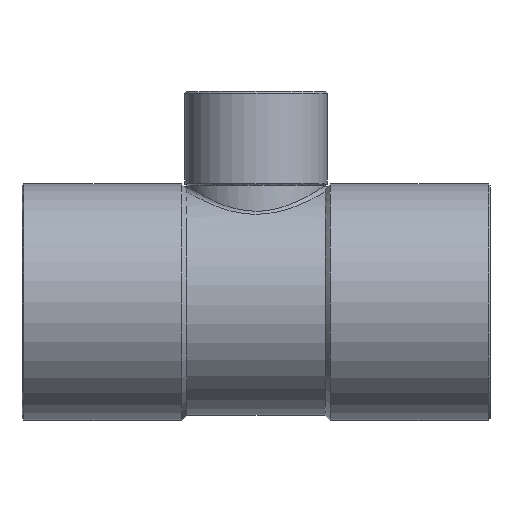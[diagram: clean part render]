
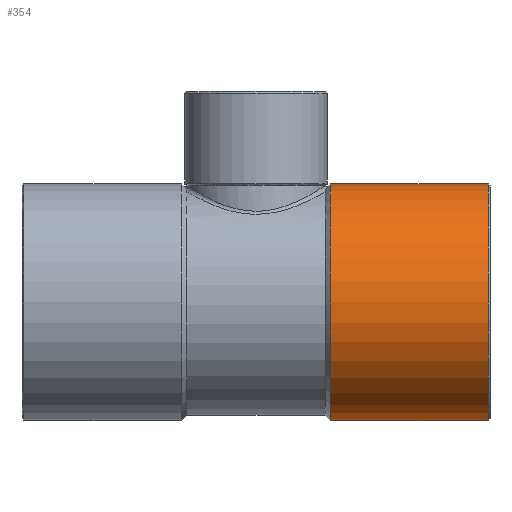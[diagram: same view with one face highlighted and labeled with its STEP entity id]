
A CAD part, top view. The second image highlights one B-rep face of the part: STEP entity #354.
In plain terms, the highlighted cylindrical face has radius 15.175 mm (diameter 30.35 mm), a partial arc.
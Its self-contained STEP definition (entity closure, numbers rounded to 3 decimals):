
#313=CARTESIAN_POINT('',(19.772,0.0,0.0));
#314=DIRECTION('',(1.0,0.0,0.0));
#315=DIRECTION('',(0.0,1.0,0.0));
#316=AXIS2_PLACEMENT_3D('',#313,#314,#315);
#317=CYLINDRICAL_SURFACE('',#316,15.175);
#318=CARTESIAN_POINT('',(9.544,15.175,0.0));
#319=VERTEX_POINT('',#318);
#320=CARTESIAN_POINT('',(29.8,15.175,0.));
#321=VERTEX_POINT('',#320);
#322=CARTESIAN_POINT('',(9.544,15.175,0.0));
#323=DIRECTION('',(1.0,0.0,0.0));
#324=VECTOR('',#323,20.256);
#325=LINE('',#322,#324);
#326=EDGE_CURVE('',#319,#321,#325,.T.);
#327=ORIENTED_EDGE('',*,*,#326,.F.);
#328=CARTESIAN_POINT('',(9.544,-15.175,0.));
#329=VERTEX_POINT('',#328);
#330=CARTESIAN_POINT('',(9.544,0.0,0.0));
#331=DIRECTION('',(1.0,0.0,0.0));
#332=DIRECTION('',(0.0,1.0,0.0));
#333=AXIS2_PLACEMENT_3D('',#330,#331,#332);
#334=CIRCLE('',#333,15.175);
#335=EDGE_CURVE('',#319,#329,#334,.T.);
#336=ORIENTED_EDGE('',*,*,#335,.T.);
#337=CARTESIAN_POINT('',(29.8,-15.175,0.));
#338=VERTEX_POINT('',#337);
#339=CARTESIAN_POINT('',(29.8,-15.175,0.));
#340=DIRECTION('',(-1.0,0.0,0.0));
#341=VECTOR('',#340,20.256);
#342=LINE('',#339,#341);
#343=EDGE_CURVE('',#338,#329,#342,.T.);
#344=ORIENTED_EDGE('',*,*,#343,.F.);
#345=CARTESIAN_POINT('',(29.8,0.0,0.0));
#346=DIRECTION('',(1.0,0.0,0.0));
#347=DIRECTION('',(0.0,-1.0,0.0));
#348=AXIS2_PLACEMENT_3D('',#345,#346,#347);
#349=CIRCLE('',#348,15.175);
#350=EDGE_CURVE('',#321,#338,#349,.T.);
#351=ORIENTED_EDGE('',*,*,#350,.F.);
#352=EDGE_LOOP('',(#327,#336,#344,#351));
#353=FACE_OUTER_BOUND('',#352,.T.);
#354=ADVANCED_FACE('',(#353),#317,.T.);
